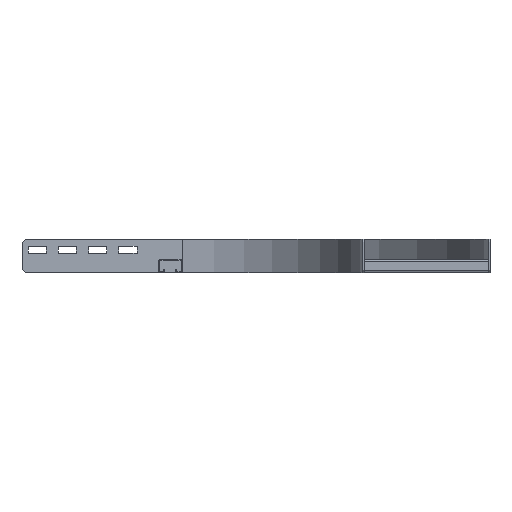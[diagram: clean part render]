
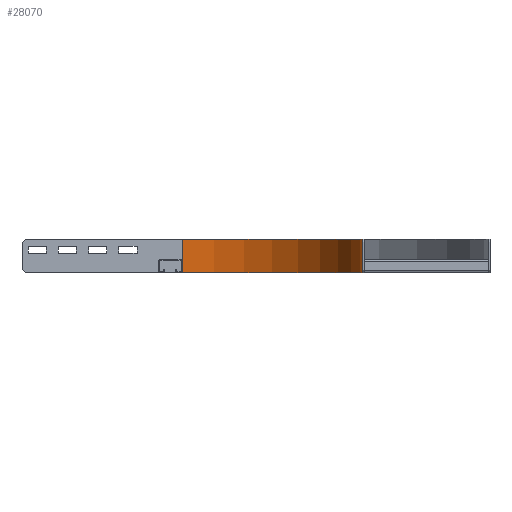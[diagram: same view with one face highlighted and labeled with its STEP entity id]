
A CAD part, front view. The second image highlights one B-rep face of the part: STEP entity #28070.
In plain terms, the highlighted cylindrical face has radius 297 mm (diameter 594 mm), a partial arc.
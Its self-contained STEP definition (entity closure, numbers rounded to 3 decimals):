
#15880=CARTESIAN_POINT('',(297.,-300.,-90.));
#15890=VERTEX_POINT('',#15880);
#15920=CARTESIAN_POINT('',(0.,-300.,-90.));
#15930=DIRECTION('',(0.,0.,-1.));
#15940=DIRECTION('',(-1.,0.,0.));
#15950=AXIS2_PLACEMENT_3D('',#15920,#15930,#15940);
#15960=CIRCLE('',#15950,297.);
#15970=CARTESIAN_POINT('',(0.,-3.,-90.));
#15980=VERTEX_POINT('',#15970);
#15990=EDGE_CURVE('',#15980,#15890,#15960,.T.);
#18400=CARTESIAN_POINT('',(0.,-3.,-145.));
#18410=VERTEX_POINT('',#18400);
#18440=CARTESIAN_POINT('',(0.,-300.,-145.));
#18450=DIRECTION('',(0.,0.,-1.));
#18460=DIRECTION('',(-1.,0.,0.));
#18470=AXIS2_PLACEMENT_3D('',#18440,#18450,#18460);
#18480=CIRCLE('',#18470,297.);
#18490=CARTESIAN_POINT('',(297.,-300.,-145.));
#18500=VERTEX_POINT('',#18490);
#18510=EDGE_CURVE('',#18410,#18500,#18480,.T.);
#22580=CARTESIAN_POINT('',(297.,-300.,0.));
#22590=DIRECTION('',(0.,0.,-1.));
#22600=VECTOR('',#22590,1.);
#22610=LINE('',#22580,#22600);
#22620=EDGE_CURVE('',#15890,#18500,#22610,.T.);
#24170=CARTESIAN_POINT('',(0.,-3.,0.));
#24180=DIRECTION('',(0.,0.,-1.));
#24190=VECTOR('',#24180,1.);
#24200=LINE('',#24170,#24190);
#24210=EDGE_CURVE('',#15980,#18410,#24200,.T.);
#27960=CARTESIAN_POINT('',(0.,-300.,0.));
#27970=DIRECTION('',(0.,0.,-1.));
#27980=DIRECTION('',(-1.,0.,0.));
#27990=AXIS2_PLACEMENT_3D('',#27960,#27970,#27980);
#28000=CYLINDRICAL_SURFACE('',#27990,297.);
#28010=ORIENTED_EDGE('',*,*,#15990,.F.);
#28020=ORIENTED_EDGE('',*,*,#22620,.F.);
#28030=ORIENTED_EDGE('',*,*,#18510,.T.);
#28040=ORIENTED_EDGE('',*,*,#24210,.T.);
#28050=EDGE_LOOP('',(#28040,#28030,#28020,#28010));
#28060=FACE_OUTER_BOUND('',#28050,.T.);
#28070=ADVANCED_FACE('',(#28060),#28000,.F.);
